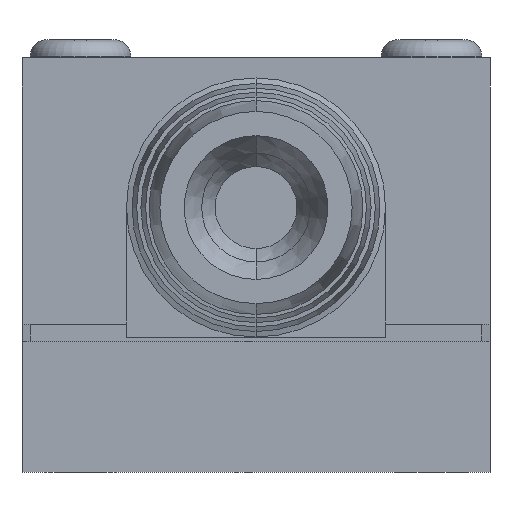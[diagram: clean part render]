
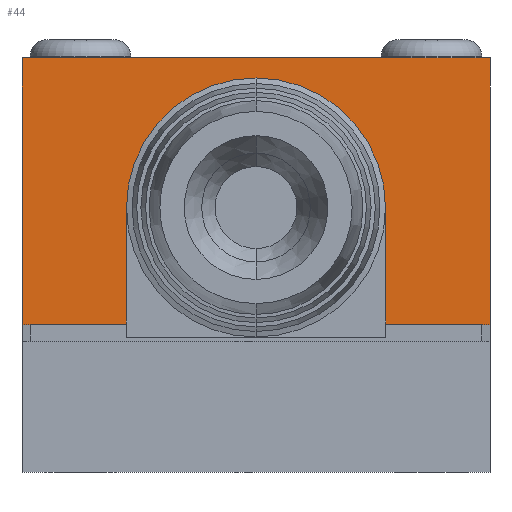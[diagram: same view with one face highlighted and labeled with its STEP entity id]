
A CAD part, front view. The second image highlights one B-rep face of the part: STEP entity #44.
In plain terms, the highlighted planar face has unit normal (0, -1, 0).
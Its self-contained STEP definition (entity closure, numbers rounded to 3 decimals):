
#44 = ADVANCED_FACE ( 'NONE', ( #6448, #6536 ), #5312, .F. ) ;
#1863 = VERTEX_POINT ( 'NONE', #4470 ) ;
#1871 = VERTEX_POINT ( 'NONE', #4478 ) ;
#2050 = VERTEX_POINT ( 'NONE', #4638 ) ;
#2051 = VERTEX_POINT ( 'NONE', #4639 ) ;
#2052 = VERTEX_POINT ( 'NONE', #4640 ) ;
#2053 = VERTEX_POINT ( 'NONE', #4641 ) ;
#2353 = ORIENTED_EDGE ( 'NONE', *, *, #6247, .T. ) ;
#2354 = ORIENTED_EDGE ( 'NONE', *, *, #6221, .F. ) ;
#2355 = ORIENTED_EDGE ( 'NONE', *, *, #6246, .F. ) ;
#2356 = ORIENTED_EDGE ( 'NONE', *, *, #6244, .T. ) ;
#2357 = ORIENTED_EDGE ( 'NONE', *, *, #6241, .T. ) ;
#2358 = ORIENTED_EDGE ( 'NONE', *, *, #6240, .F. ) ;
#2744 = EDGE_LOOP ( 'NONE', ( #2358, #2354 ) ) ;
#2745 = EDGE_LOOP ( 'NONE', ( #2356, #2353, #2355, #2357 ) ) ;
#4470 = CARTESIAN_POINT ( 'NONE',  ( 0., -22.525, 11.1 ) ) ;
#4478 = CARTESIAN_POINT ( 'NONE',  ( 0., -22.525, 20.6 ) ) ;
#4638 = CARTESIAN_POINT ( 'NONE',  ( 14., -22.525, 24.8 ) ) ;
#4639 = CARTESIAN_POINT ( 'NONE',  ( 14., -22.525, 8.85 ) ) ;
#4640 = CARTESIAN_POINT ( 'NONE',  ( -14., -22.525, 8.85 ) ) ;
#4641 = CARTESIAN_POINT ( 'NONE',  ( -14., -22.525, 24.8 ) ) ;
#5312 = PLANE ( 'NONE',  #6616 ) ;
#5313 = CARTESIAN_POINT ( 'NONE',  ( 14., -22.525, 24.8 ) ) ;
#5314 = DIRECTION ( 'NONE',  ( 0., 1., 0. ) ) ;
#5315 = DIRECTION ( 'NONE',  ( 0., 0., 1. ) ) ;
#5871 = CIRCLE ( 'NONE', #13237, 4.75 ) ;
#5885 = CIRCLE ( 'NONE', #13265, 4.75 ) ;
#6221 = EDGE_CURVE ( 'NONE', #1863, #1871, #5885, .T. ) ;
#6240 = EDGE_CURVE ( 'NONE', #1871, #1863, #5871, .T. ) ;
#6241 = EDGE_CURVE ( 'NONE', #2050, #2053, #7942, .T. ) ;
#6244 = EDGE_CURVE ( 'NONE', #2053, #2052, #7951, .T. ) ;
#6246 = EDGE_CURVE ( 'NONE', #2050, #2051, #7957, .T. ) ;
#6247 = EDGE_CURVE ( 'NONE', #2052, #2051, #7960, .T. ) ;
#6448 = FACE_OUTER_BOUND ( 'NONE', #2745, .T. ) ;
#6536 = FACE_BOUND ( 'NONE', #2744, .T. ) ;
#6616 = AXIS2_PLACEMENT_3D ( 'NONE', #5313, #5314, #5315 ) ;
#7881 = CARTESIAN_POINT ( 'NONE',  ( 0., -22.525, 15.85 ) ) ;
#7882 = DIRECTION ( 'NONE',  ( 0., -1., 0. ) ) ;
#7883 = DIRECTION ( 'NONE',  ( 0., 0., 1. ) ) ;
#7935 = CARTESIAN_POINT ( 'NONE',  ( 0., -22.525, 15.85 ) ) ;
#7939 = DIRECTION ( 'NONE',  ( 0., -1., 0. ) ) ;
#7940 = DIRECTION ( 'NONE',  ( 0., 0., 1. ) ) ;
#7942 = LINE ( 'NONE', #7943, #13232 ) ;
#7943 = CARTESIAN_POINT ( 'NONE',  ( 14., -22.525, 24.8 ) ) ;
#7944 = DIRECTION ( 'NONE',  ( -1., 0., 0. ) ) ;
#7951 = LINE ( 'NONE', #7952, #13225 ) ;
#7952 = CARTESIAN_POINT ( 'NONE',  ( -14., -22.525, 24.8 ) ) ;
#7953 = DIRECTION ( 'NONE',  ( 0., 0., -1. ) ) ;
#7957 = LINE ( 'NONE', #7958, #13224 ) ;
#7958 = CARTESIAN_POINT ( 'NONE',  ( 14., -22.525, 24.8 ) ) ;
#7959 = DIRECTION ( 'NONE',  ( 0., 0., -1. ) ) ;
#7960 = LINE ( 'NONE', #7961, #13222 ) ;
#7961 = CARTESIAN_POINT ( 'NONE',  ( -14., -22.525, 8.85 ) ) ;
#7962 = DIRECTION ( 'NONE',  ( 1., 0., 0. ) ) ;
#13222 = VECTOR ( 'NONE', #7962, 1000. ) ;
#13224 = VECTOR ( 'NONE', #7959, 1000. ) ;
#13225 = VECTOR ( 'NONE', #7953, 1000. ) ;
#13232 = VECTOR ( 'NONE', #7944, 1000. ) ;
#13237 = AXIS2_PLACEMENT_3D ( 'NONE', #7935, #7939, #7940 ) ;
#13265 = AXIS2_PLACEMENT_3D ( 'NONE', #7881, #7882, #7883 ) ;
